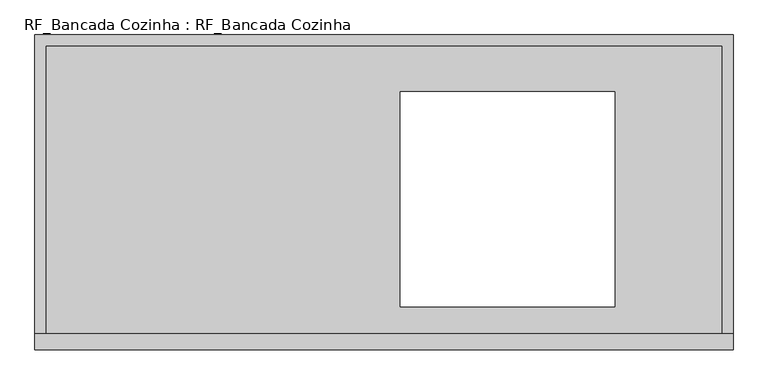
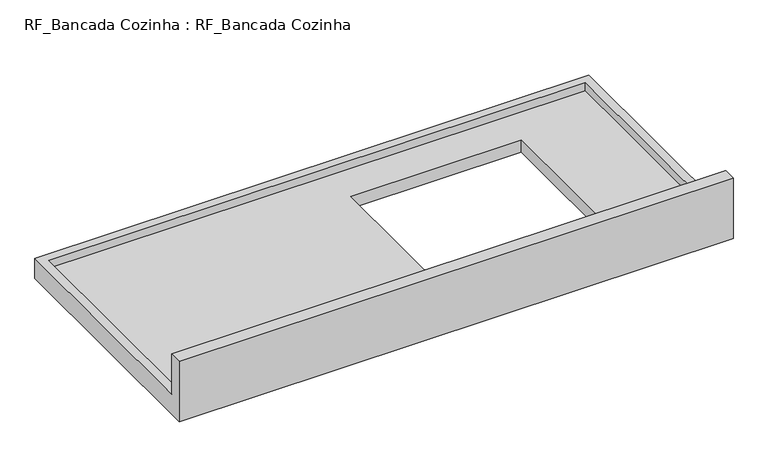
"""IFC4 building model written with IfcOpenShell, lengths in millimetres: proxy geometry, RF_Bancada Cozinha : RF_Bancada Cozinha."""

from ifc_helpers import new_model, si_unit, origin, place, context, project, spatial, faceted_brep, source, transform, mapped, element, save


def rf_bancada_cozinha_rf_bancada_cozinha_2f873929(model_context):
    return source(origin(), model_context, "Body", "Brep", [
        faceted_brep([(1300.0, 0.0, 150.0), (1300.0, 0.0, 0.0), (1300.0, 586.2819009, 0.0), (1300.0, 586.2819009, 50.0), (1300.0, 30.0, 50.0), (1300.0, 30.0, 150.0), (0.0, 0.0, 150.0), (0.0, 30.0, 150.0), (0.0, 30.0, 50.0), (0.0, 586.2819009, 50.0), (0.0, 586.2819009, 0.0), (0.0, 0.0, 0.0), (1280.0, 30.0, 50.0), (1280.0, 30.0, 30.0), (20.0, 30.0, 30.0), (20.0, 30.0, 50.0), (20.0, 566.2819009, 50.0), (1280.0, 566.2819009, 50.0), (680.0, 80.5819009, 0.0), (1080.0, 80.5819009, 0.0), (1080.0, 480.5819009, 0.0), (680.0, 480.5819009, 0.0), (1280.0, 566.2819009, 30.0), (20.0, 566.2819009, 30.0), (680.0, 480.5819009, 30.0), (1080.0, 480.5819009, 30.0), (1080.0, 80.5819009, 30.0), (680.0, 80.5819009, 30.0)], [[[0, 1, 2, 3, 4, 5]], [[6, 7, 8, 9, 10, 11]], [[5, 7, 6, 0]], [[4, 12, 13, 14, 15, 8, 7, 5]], [[3, 9, 8, 15, 16, 17, 12, 4]], [[2, 10, 9, 3]], [[1, 11, 10, 2], [18, 19, 20, 21]], [[0, 6, 11, 1]], [[13, 22, 23, 14], [24, 25, 26, 27]], [[13, 12, 17, 22]], [[22, 17, 16, 23]], [[23, 16, 15, 14]], [[24, 27, 18, 21]], [[27, 26, 19, 18]], [[26, 25, 20, 19]], [[21, 20, 25, 24]]]),
    ])


if __name__ == "__main__":
    model = new_model("IFC4")
    model_context = context("Model", 3, world=origin())
    ifc_project = project(units=[si_unit("LENGTHUNIT", "METRE", prefix="MILLI")], contexts=[model_context])
    site = spatial("IfcSite", under=ifc_project)
    building = spatial("IfcBuilding", under=site)
    placement = place(None, origin())
    rf_bancada_cozinha_rf_bancada_cozinha_shape = rf_bancada_cozinha_rf_bancada_cozinha_2f873929(model_context)
    element("IfcBuildingElementProxy", 1, Name="RF_Bancada Cozinha : RF_Bancada Cozinha", ObjectType="RF_Bancada Cozinha : RF_Bancada Cozinha", at=placement, inside=building, context=model_context, shape_type="MappedRepresentation", body=[
        mapped(rf_bancada_cozinha_rf_bancada_cozinha_shape, transform((0.0, 0.0, 0.0), x_axis=(1.0, 0.0, 0.0), y_axis=(0.0, 1.0, 0.0), z_axis=(0.0, 0.0, 1.0))),
    ])
    save(model, "model.ifc")
